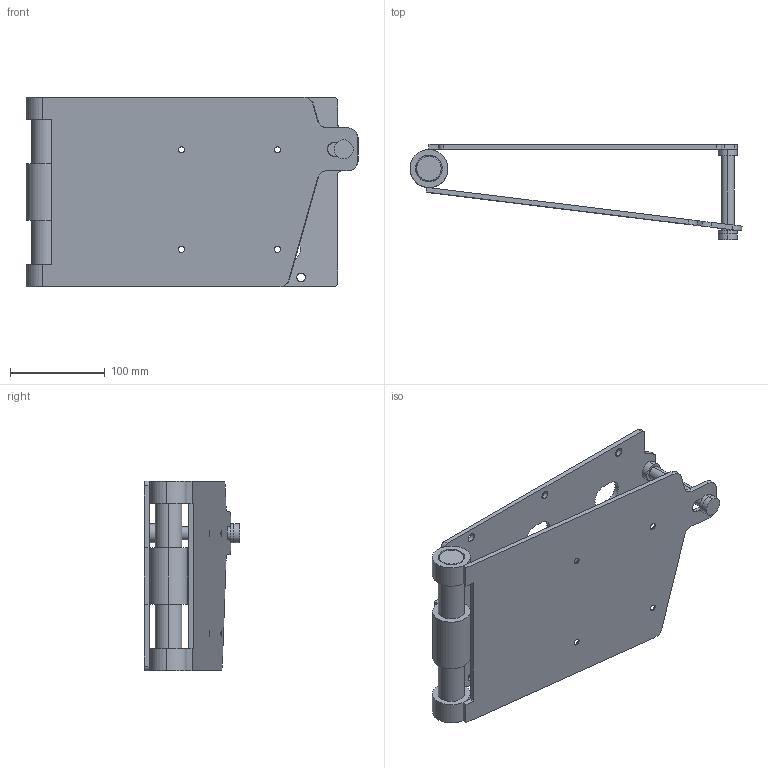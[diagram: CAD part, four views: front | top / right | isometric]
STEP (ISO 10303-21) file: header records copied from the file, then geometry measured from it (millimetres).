
FILE_DESCRIPTION (( 'STEP AP214' ), '1' );
FILE_NAME ('250.90.1063_Gesamtbaugruppe_3D.STEP', '2016-07-05T11:37:44', ( 'user' ), ( 'Hewlett-Packard Company' ), 'SwSTEP 2.0', 'SolidWorks 2011', '' );
FILE_SCHEMA (( 'AUTOMOTIVE_DESIGN' ));
Length unit declared in the file: millimetre
Products named in the file (7): Endanschlag_20x12x6,8_250.90.1190~1; Endanschlag_20x12x6,8_250.90.1190~1_Endanschlag unten; Fuehrungsbolzen_250.90.1186~1; Achse_D=28_L=200_250.90.1062~1; Blech_335x200x5_250.90.1056~1_Schweissbaugruppe; Bech_250.90.1059~1_Schweissbaugruppe; 250.90.1063_Gesamtbaugruppe_3D
Assembly tree (6 placements, depth 2):
  250.90.1063_Gesamtbaugruppe_3D
    Achse_D=28_L=200_250.90.1062~1
    Blech_335x200x5_250.90.1056~1_Schweissbaugruppe
    Endanschlag_20x12x6,8_250.90.1190~1
    Endanschlag_20x12x6,8_250.90.1190~1_Endanschlag unten
    Fuehrungsbolzen_250.90.1186~1
    Bech_250.90.1059~1_Schweissbaugruppe
Bounding box: 350.07 x 100.4 x 200 mm (x, y, z)
Volume: 777425.7 mm3; surface area: 294324.6 mm2
Topology: 9 solids, 9 shells, 158 faces, 390 edges, 251 vertices
Faces by surface type: cylinder 80, plane 54, cone 20, torus 4
Entity records: 5133 total; most frequent: DIRECTION 908, CARTESIAN_POINT 806, ORIENTED_EDGE 776, EDGE_CURVE 388, AXIS2_PLACEMENT_3D 353, VERTEX_POINT 251, EDGE_LOOP 203, VECTOR 202
